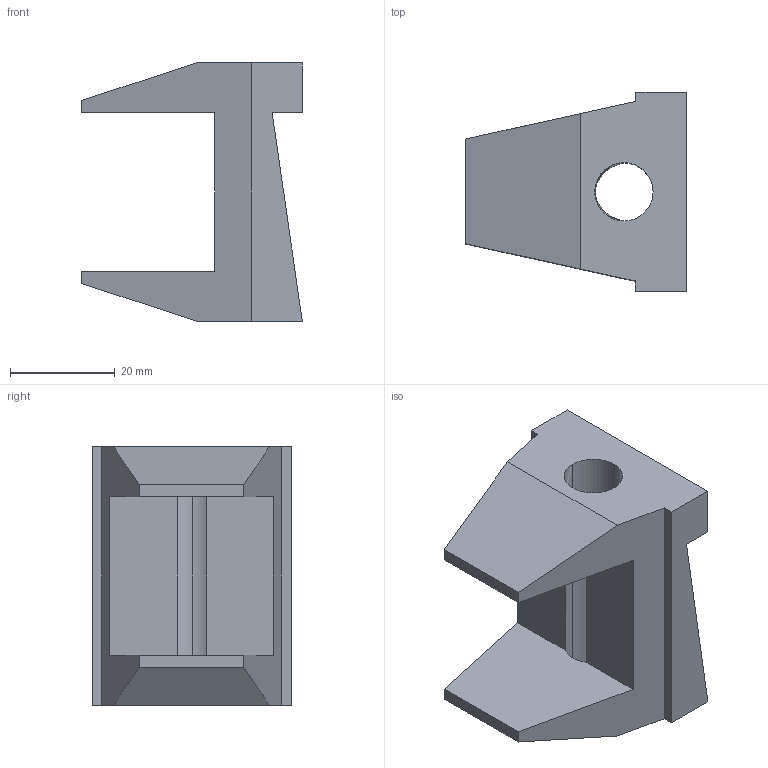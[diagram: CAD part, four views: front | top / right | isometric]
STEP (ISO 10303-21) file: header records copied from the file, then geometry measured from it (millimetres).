
FILE_DESCRIPTION(('TurboCAD Mac Pro'),'Build 980');
FILE_NAME('PLF3037.stp',' ',(''),(''),'ACIS Interop','IMSI','TurboCAD Mac Pro BY IMSI, INCORPORATED');
FILE_SCHEMA(('automotive_design'));
Length unit declared in the file: inch
Products named in the file (1): 1
Bounding box: 42.07 x 37.92 x 49.21 mm (x, y, z)
Volume: 29033.2 mm3; surface area: 10425.3 mm2
Topology: 1 solids, 1 shells, 23 faces, 69 edges, 46 vertices
Faces by surface type: plane 18, bspline 5
Entity records: 1032 total; most frequent: CARTESIAN_POINT 245, ORIENTED_EDGE 138, DIRECTION 88, EDGE_CURVE 69, LINE 50, VECTOR 50, VERTEX_POINT 46, EDGE_LOOP 25
